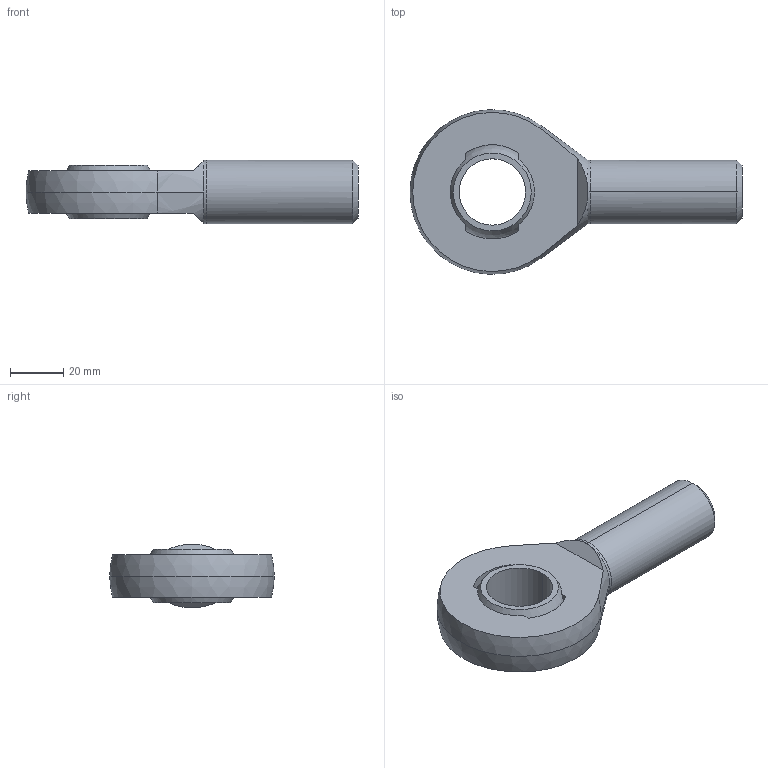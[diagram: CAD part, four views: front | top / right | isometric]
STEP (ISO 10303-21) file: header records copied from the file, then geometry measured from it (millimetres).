
FILE_DESCRIPTION (( 'STEP AP203' ), '1' );
FILE_NAME ('65860.W0025.step', '2014-02-06T11:44:16', ( 'User' ), ( '' ), 'SwSTEP 2.0', 'SolidWorks 2009', '' );
FILE_SCHEMA (( 'CONFIG_CONTROL_DESIGN' ));
Length unit declared in the file: millimetre
Products named in the file (3): Part1_65860.W0025; Part2_65860.W0025; 65860.W0025
Assembly tree (2 placements, depth 2):
  65860.W0025
    Part1_65860.W0025
    Part2_65860.W0025
Bounding box: 125 x 61.94 x 24 mm (x, y, z)
Volume: 69637.9 mm3; surface area: 18010.4 mm2
Topology: 2 solids, 2 shells, 35 faces, 82 edges, 51 vertices
Faces by surface type: plane 15, sphere 8, cylinder 8, cone 4
Entity records: 1365 total; most frequent: CARTESIAN_POINT 239, DIRECTION 196, ORIENTED_EDGE 160, AXIS2_PLACEMENT_3D 84, EDGE_CURVE 80, VERTEX_POINT 51, CIRCLE 44, EDGE_LOOP 41
